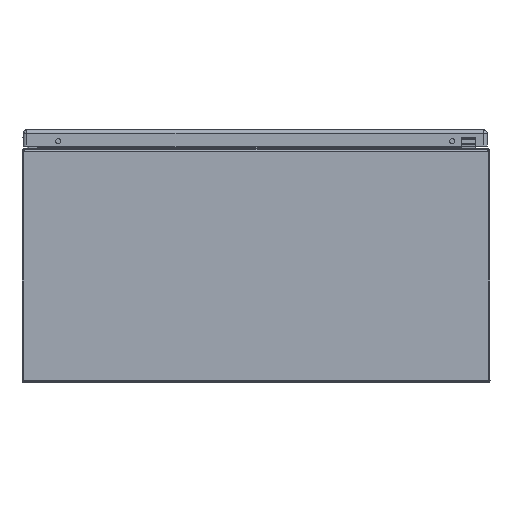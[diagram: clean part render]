
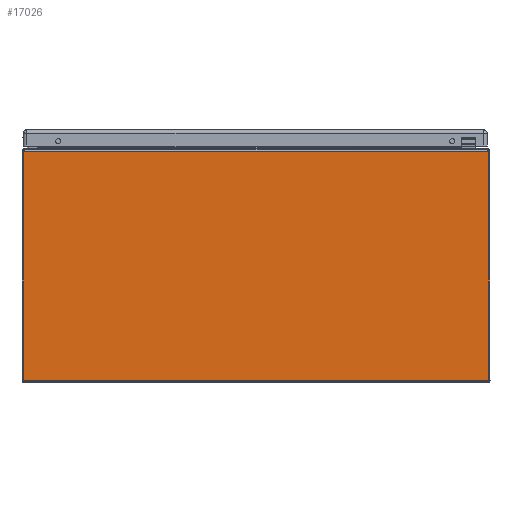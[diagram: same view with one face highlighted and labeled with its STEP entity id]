
A CAD part, front view. The second image highlights one B-rep face of the part: STEP entity #17026.
In plain terms, the highlighted planar face has unit normal (0, -1, 0).
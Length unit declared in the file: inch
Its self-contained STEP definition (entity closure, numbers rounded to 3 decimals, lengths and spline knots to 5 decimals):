
#513 = VERTEX_POINT ( 'NONE', #5542 ) ;
#682 = VERTEX_POINT ( 'NONE', #5743 ) ;
#877 = VERTEX_POINT ( 'NONE', #6028 ) ;
#1572 = VERTEX_POINT ( 'NONE', #19355 ) ;
#5542 = CARTESIAN_POINT ( 'NONE',  ( -9.93793, -15., 9.855 ) ) ;
#5743 = CARTESIAN_POINT ( 'NONE',  ( 9.93793, -15., 0.106 ) ) ;
#6028 = CARTESIAN_POINT ( 'NONE',  ( -9.93793, -15., 0.106 ) ) ;
#14836 = FACE_OUTER_BOUND ( 'NONE', #41143, .T. ) ;
#17026 = ADVANCED_FACE ( 'NONE', ( #14836 ), #30915, .T. ) ;
#19355 = CARTESIAN_POINT ( 'NONE',  ( 9.93793, -15., 9.855 ) ) ;
#25525 = VECTOR ( 'NONE', #35218, 39.37008 ) ;
#25529 = LINE ( 'NONE', #35217, #25525 ) ;
#25590 = LINE ( 'NONE', #35325, #25594 ) ;
#25594 = VECTOR ( 'NONE', #35326, 39.37008 ) ;
#25611 = LINE ( 'NONE', #35346, #25612 ) ;
#25612 = VECTOR ( 'NONE', #35347, 39.37008 ) ;
#25619 = LINE ( 'NONE', #35353, #25620 ) ;
#25620 = VECTOR ( 'NONE', #35354, 39.37008 ) ;
#29303 = CARTESIAN_POINT ( 'NONE',  ( -160., -15., 9.855 ) ) ;
#30915 = PLANE ( 'NONE',  #33844 ) ;
#30919 = DIRECTION ( 'NONE',  ( 0., -1., 0. ) ) ;
#30972 = DIRECTION ( 'NONE',  ( 0., 0., -1. ) ) ;
#33148 = EDGE_CURVE ( 'NONE', #513, #877, #25529, .T. ) ;
#33191 = EDGE_CURVE ( 'NONE', #682, #1572, #25590, .T. ) ;
#33201 = EDGE_CURVE ( 'NONE', #513, #1572, #25611, .T. ) ;
#33205 = EDGE_CURVE ( 'NONE', #877, #682, #25619, .T. ) ;
#33844 = AXIS2_PLACEMENT_3D ( 'NONE', #29303, #30919, #30972 ) ;
#35217 = CARTESIAN_POINT ( 'NONE',  ( -9.93793, -15., 9.855 ) ) ;
#35218 = DIRECTION ( 'NONE',  ( 0., 0., -1. ) ) ;
#35325 = CARTESIAN_POINT ( 'NONE',  ( 9.93793, -15., 9.855 ) ) ;
#35326 = DIRECTION ( 'NONE',  ( 0., 0., 1. ) ) ;
#35346 = CARTESIAN_POINT ( 'NONE',  ( -160., -15., 9.855 ) ) ;
#35347 = DIRECTION ( 'NONE',  ( 1., 0., 0. ) ) ;
#35353 = CARTESIAN_POINT ( 'NONE',  ( -160., -15., 0.106 ) ) ;
#35354 = DIRECTION ( 'NONE',  ( 1., 0., 0. ) ) ;
#41143 = EDGE_LOOP ( 'NONE', ( #43344, #43411, #43349, #43485 ) ) ;
#43344 = ORIENTED_EDGE ( 'NONE', *, *, #33191, .T. ) ;
#43349 = ORIENTED_EDGE ( 'NONE', *, *, #33148, .T. ) ;
#43411 = ORIENTED_EDGE ( 'NONE', *, *, #33201, .F. ) ;
#43485 = ORIENTED_EDGE ( 'NONE', *, *, #33205, .T. ) ;
